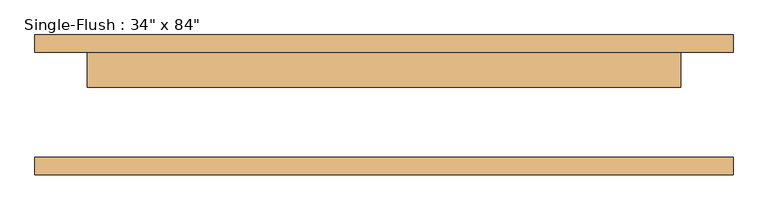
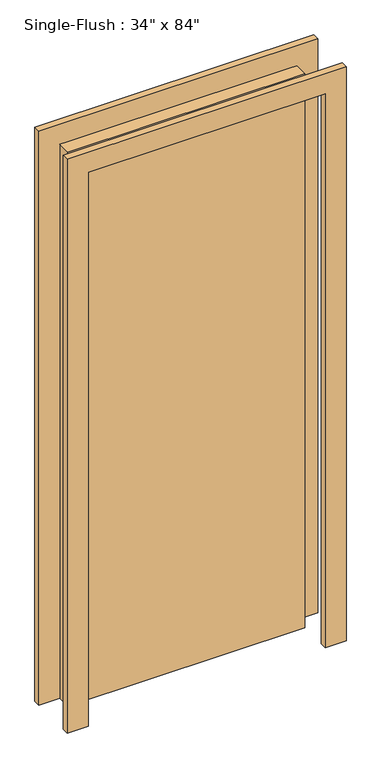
"""IFC4 building model written with IfcOpenShell, lengths in millimetres: door geometry."""

from ifc_helpers import new_model, si_unit, frame, origin, origin_with_axes, place, context, project, spatial, polyline, outline, extrude, source, transform, mapped, element, save


def door_b6e9fca3(model_context):
    return source(origin(), model_context, "Body", "SweptSolid", [
        extrude(outline(polyline([(2209.8, -508.0), (0.0, -508.0), (0.0, -431.8), (2133.6, -431.8), (2133.6, 431.8), (0.0, 431.8), (0.0, 508.0), (2209.8, 508.0), (2209.8, -508.0)])), frame((0.0, 76.2, 0.0), z_axis=(0.0, 1.0, 0.0), x_axis=(0.0, 0.0, 1.0)), (0.0, 0.0, 1.0), 25.4),
        extrude(outline(polyline([(2209.8, 508.0), (2209.8, -508.0), (0.0, -508.0), (0.0, -431.8), (2133.6, -431.8), (2133.6, 431.8), (0.0, 431.8), (0.0, 508.0), (2209.8, 508.0)])), frame((0.0, -101.6, 0.0), z_axis=(0.0, 1.0, 0.0), x_axis=(0.0, 0.0, 1.0)), (0.0, 0.0, 1.0), 25.4),
        extrude(outline(polyline([(431.8, 25.4), (-431.8, 25.4), (-431.8, 76.2), (431.8, 76.2), (431.8, 25.4)])), origin_with_axes(), (0.0, 0.0, 1.0), 2133.6),
    ])


if __name__ == "__main__":
    model = new_model("IFC4")
    model_context = context("Model", 3, world=origin())
    ifc_project = project(units=[si_unit("LENGTHUNIT", "METRE", prefix="MILLI")], contexts=[model_context])
    site = spatial("IfcSite", under=ifc_project)
    building = spatial("IfcBuilding", under=site)
    placement = place(None, origin())
    door_shape = door_b6e9fca3(model_context)
    element("IfcDoor", 1, ObjectType="Single-Flush : 34\" x 84\"", at=placement, inside=building, context=model_context, shape_type="MappedRepresentation", body=[
        mapped(door_shape, transform((0.0, 0.0, 0.0), x_axis=(1.0, 0.0, 0.0), y_axis=(0.0, 1.0, 0.0), z_axis=(0.0, 0.0, 1.0))),
    ])
    save(model, "model.ifc")
